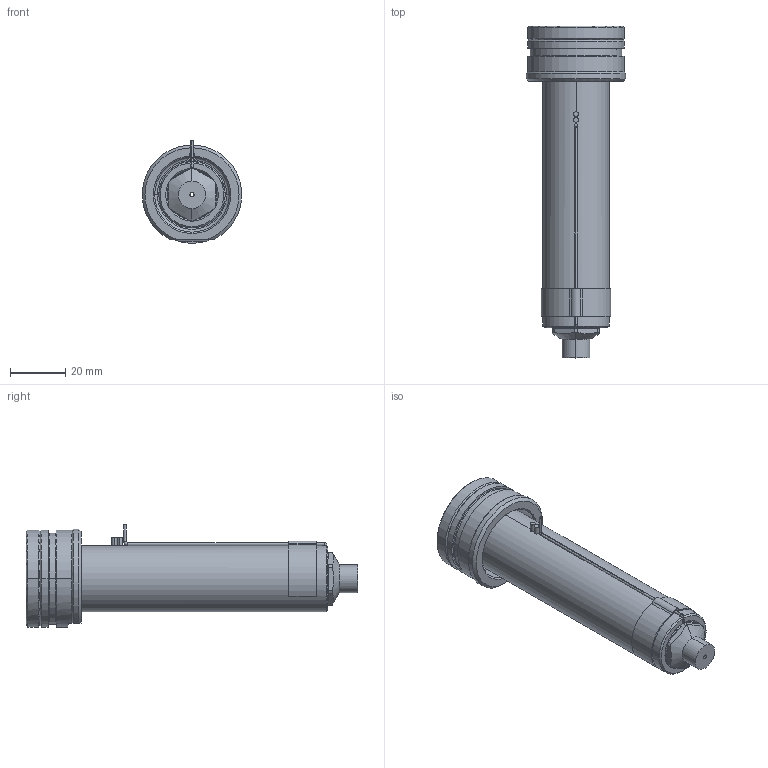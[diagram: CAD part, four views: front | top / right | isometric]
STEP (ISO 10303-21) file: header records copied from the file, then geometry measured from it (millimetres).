
FILE_DESCRIPTION((''),'2;1');
FILE_NAME('EO06_VG-FB_WR_100_SW','2024-02-19T13:27:14',('sundharh'),(''),'CREO PARAMETRIC BY PTC INC, 2023154','CREO PARAMETRIC BY PTC INC, 2023154','');
FILE_SCHEMA(('CONFIG_CONTROL_DESIGN'));
Length unit declared in the file: millimetre
Products named in the file (1): EO06_VG-FB_WR_100_SW
Bounding box: 35.93 x 120 x 37 mm (x, y, z)
Volume: 55894.3 mm3; surface area: 16882 mm2
Topology: 2 solids, 2 shells, 202 faces, 502 edges, 300 vertices
Faces by surface type: cylinder 76, plane 41, cone 38, torus 29, bspline 16, sphere 2
Entity records: 6924 total; most frequent: CARTESIAN_POINT 2070, DIRECTION 1084, ORIENTED_EDGE 988, EDGE_CURVE 494, AXIS2_PLACEMENT_3D 458, VERTEX_POINT 300, CIRCLE 272, EDGE_LOOP 216
